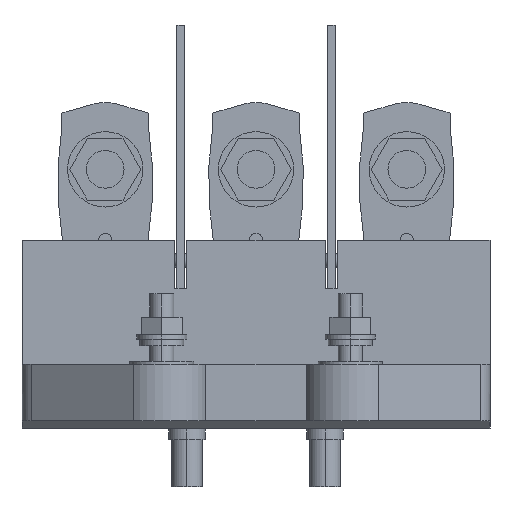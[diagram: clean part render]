
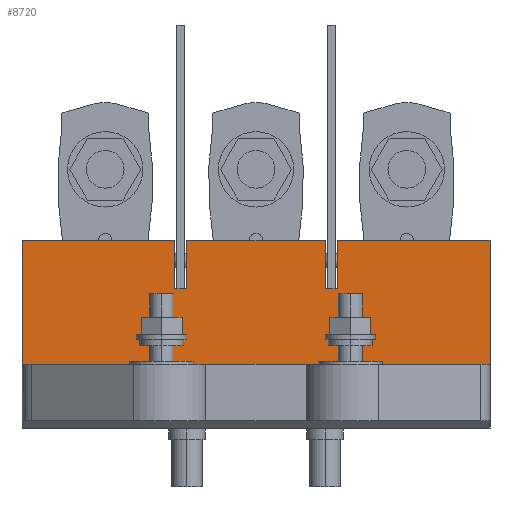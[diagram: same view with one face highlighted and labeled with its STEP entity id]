
A CAD part, front view. The second image highlights one B-rep face of the part: STEP entity #8720.
In plain terms, the highlighted planar face has unit normal (0, -1, 0) as drawn and (0, 0, -1) by its records, which use the part's own axes.
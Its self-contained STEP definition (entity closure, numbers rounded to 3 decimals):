
#230 = CARTESIAN_POINT ( 'NONE',  ( -30., 26., -55. ) ) ;
#270 = EDGE_CURVE ( 'NONE', #7352, #981, #5843, .T. ) ;
#350 = EDGE_CURVE ( 'NONE', #1705, #951, #600, .T. ) ;
#440 = CARTESIAN_POINT ( 'NONE',  ( -30., -26., -55. ) ) ;
#600 = LINE ( 'NONE', #3633, #2751 ) ;
#691 = EDGE_CURVE ( 'NONE', #5790, #981, #7206, .T. ) ;
#918 = VECTOR ( 'NONE', #5147, 1000. ) ;
#951 = VERTEX_POINT ( 'NONE', #230 ) ;
#981 = VERTEX_POINT ( 'NONE', #5455 ) ;
#1026 = VECTOR ( 'NONE', #8297, 1000. ) ;
#1144 = VERTEX_POINT ( 'NONE', #9533 ) ;
#1163 = VECTOR ( 'NONE', #1188, 1000. ) ;
#1188 = DIRECTION ( 'NONE',  ( 0., -1., 0. ) ) ;
#1247 = ORIENTED_EDGE ( 'NONE', *, *, #350, .F. ) ;
#1705 = VERTEX_POINT ( 'NONE', #8603 ) ;
#1753 = CARTESIAN_POINT ( 'NONE',  ( -14.5, -22., -55. ) ) ;
#1772 = VERTEX_POINT ( 'NONE', #5334 ) ;
#1942 = DIRECTION ( 'NONE',  ( 0., -1., 0. ) ) ;
#1970 = EDGE_CURVE ( 'NONE', #7333, #4607, #6524, .T. ) ;
#2029 = AXIS2_PLACEMENT_3D ( 'NONE', #3754, #3798, #7441 ) ;
#2037 = DIRECTION ( 'NONE',  ( -1., 0., 0. ) ) ;
#2053 = CARTESIAN_POINT ( 'NONE',  ( -120., -74.5, -55. ) ) ;
#2054 = ORIENTED_EDGE ( 'NONE', *, *, #3282, .F. ) ;
#2234 = CARTESIAN_POINT ( 'NONE',  ( -120., 74.5, -55. ) ) ;
#2305 = VECTOR ( 'NONE', #5775, 1000. ) ;
#2347 = ORIENTED_EDGE ( 'NONE', *, *, #8270, .F. ) ;
#2366 = VERTEX_POINT ( 'NONE', #6318 ) ;
#2512 = ORIENTED_EDGE ( 'NONE', *, *, #3525, .F. ) ;
#2751 = VECTOR ( 'NONE', #1942, 1000. ) ;
#2952 = CARTESIAN_POINT ( 'NONE',  ( -30., -120., -55. ) ) ;
#3282 = EDGE_CURVE ( 'NONE', #5790, #1705, #4516, .T. ) ;
#3525 = EDGE_CURVE ( 'NONE', #951, #7333, #8694, .T. ) ;
#3633 = CARTESIAN_POINT ( 'NONE',  ( -30., 120., -55. ) ) ;
#3754 = CARTESIAN_POINT ( 'NONE',  ( -30., -120., -55. ) ) ;
#3761 = DIRECTION ( 'NONE',  ( -1., 0., 0. ) ) ;
#3798 = DIRECTION ( 'NONE',  ( 0., 0., -1. ) ) ;
#3809 = CARTESIAN_POINT ( 'NONE',  ( -14.5, -120., -55. ) ) ;
#3925 = DIRECTION ( 'NONE',  ( 1., 0., 0. ) ) ;
#4025 = EDGE_CURVE ( 'NONE', #1772, #7352, #4396, .T. ) ;
#4073 = VECTOR ( 'NONE', #9833, 1000. ) ;
#4154 = CARTESIAN_POINT ( 'NONE',  ( 9.5, 74.5, -55. ) ) ;
#4208 = ORIENTED_EDGE ( 'NONE', *, *, #9845, .F. ) ;
#4213 = DIRECTION ( 'NONE',  ( 1., 0., 0. ) ) ;
#4226 = ORIENTED_EDGE ( 'NONE', *, *, #7041, .F. ) ;
#4314 = VERTEX_POINT ( 'NONE', #1753 ) ;
#4396 = LINE ( 'NONE', #6691, #918 ) ;
#4516 = LINE ( 'NONE', #2234, #1026 ) ;
#4581 = ORIENTED_EDGE ( 'NONE', *, *, #270, .F. ) ;
#4607 = VERTEX_POINT ( 'NONE', #7846 ) ;
#4918 = LINE ( 'NONE', #440, #8829 ) ;
#5019 = ORIENTED_EDGE ( 'NONE', *, *, #691, .T. ) ;
#5061 = VECTOR ( 'NONE', #7515, 1000. ) ;
#5147 = DIRECTION ( 'NONE',  ( 0., -1., 0. ) ) ;
#5260 = LINE ( 'NONE', #3809, #4073 ) ;
#5334 = CARTESIAN_POINT ( 'NONE',  ( -30., -26., -55. ) ) ;
#5419 = LINE ( 'NONE', #6410, #7405 ) ;
#5455 = CARTESIAN_POINT ( 'NONE',  ( 9.5, -74.5, -55. ) ) ;
#5686 = ORIENTED_EDGE ( 'NONE', *, *, #1970, .F. ) ;
#5775 = DIRECTION ( 'NONE',  ( 0., -1., 0. ) ) ;
#5790 = VERTEX_POINT ( 'NONE', #4154 ) ;
#5843 = LINE ( 'NONE', #2053, #6723 ) ;
#5875 = EDGE_CURVE ( 'NONE', #4607, #9804, #8282, .T. ) ;
#5965 = CARTESIAN_POINT ( 'NONE',  ( -30., 22., -55. ) ) ;
#6129 = EDGE_LOOP ( 'NONE', ( #7305, #4208, #8785, #5686, #2512, #1247, #2054, #5019, #4581, #8826, #4226, #2347 ) ) ;
#6318 = CARTESIAN_POINT ( 'NONE',  ( -30., -22., -55. ) ) ;
#6410 = CARTESIAN_POINT ( 'NONE',  ( -30., -22., -55. ) ) ;
#6524 = LINE ( 'NONE', #9546, #2305 ) ;
#6691 = CARTESIAN_POINT ( 'NONE',  ( -30., -120., -55. ) ) ;
#6695 = FACE_OUTER_BOUND ( 'NONE', #6129, .T. ) ;
#6723 = VECTOR ( 'NONE', #9512, 1000. ) ;
#7041 = EDGE_CURVE ( 'NONE', #1144, #1772, #4918, .T. ) ;
#7206 = LINE ( 'NONE', #7951, #1163 ) ;
#7208 = VECTOR ( 'NONE', #3761, 1000. ) ;
#7305 = ORIENTED_EDGE ( 'NONE', *, *, #8057, .F. ) ;
#7333 = VERTEX_POINT ( 'NONE', #8429 ) ;
#7352 = VERTEX_POINT ( 'NONE', #9178 ) ;
#7384 = VECTOR ( 'NONE', #4213, 1000. ) ;
#7405 = VECTOR ( 'NONE', #3925, 1000. ) ;
#7441 = DIRECTION ( 'NONE',  ( 0., -1., 0. ) ) ;
#7515 = DIRECTION ( 'NONE',  ( 0., -1., 0. ) ) ;
#7846 = CARTESIAN_POINT ( 'NONE',  ( -14.5, 22., -55. ) ) ;
#7951 = CARTESIAN_POINT ( 'NONE',  ( 9.5, -120., -55. ) ) ;
#8057 = EDGE_CURVE ( 'NONE', #2366, #4314, #5419, .T. ) ;
#8122 = CARTESIAN_POINT ( 'NONE',  ( -30., 22., -55. ) ) ;
#8270 = EDGE_CURVE ( 'NONE', #4314, #1144, #5260, .T. ) ;
#8282 = LINE ( 'NONE', #5965, #7208 ) ;
#8297 = DIRECTION ( 'NONE',  ( -1., 0., 0. ) ) ;
#8429 = CARTESIAN_POINT ( 'NONE',  ( -14.5, 26., -55. ) ) ;
#8603 = CARTESIAN_POINT ( 'NONE',  ( -30., 74.5, -55. ) ) ;
#8641 = CARTESIAN_POINT ( 'NONE',  ( -30., 26., -55. ) ) ;
#8694 = LINE ( 'NONE', #8641, #7384 ) ;
#8720 = ADVANCED_FACE ( 'NONE', ( #6695 ), #9718, .T. ) ;
#8785 = ORIENTED_EDGE ( 'NONE', *, *, #5875, .F. ) ;
#8826 = ORIENTED_EDGE ( 'NONE', *, *, #4025, .F. ) ;
#8829 = VECTOR ( 'NONE', #2037, 1000. ) ;
#9178 = CARTESIAN_POINT ( 'NONE',  ( -30., -74.5, -55. ) ) ;
#9512 = DIRECTION ( 'NONE',  ( 1., 0., 0. ) ) ;
#9533 = CARTESIAN_POINT ( 'NONE',  ( -14.5, -26., -55. ) ) ;
#9546 = CARTESIAN_POINT ( 'NONE',  ( -14.5, 120., -55. ) ) ;
#9705 = LINE ( 'NONE', #2952, #5061 ) ;
#9718 = PLANE ( 'NONE',  #2029 ) ;
#9804 = VERTEX_POINT ( 'NONE', #8122 ) ;
#9833 = DIRECTION ( 'NONE',  ( 0., -1., 0. ) ) ;
#9845 = EDGE_CURVE ( 'NONE', #9804, #2366, #9705, .T. ) ;
